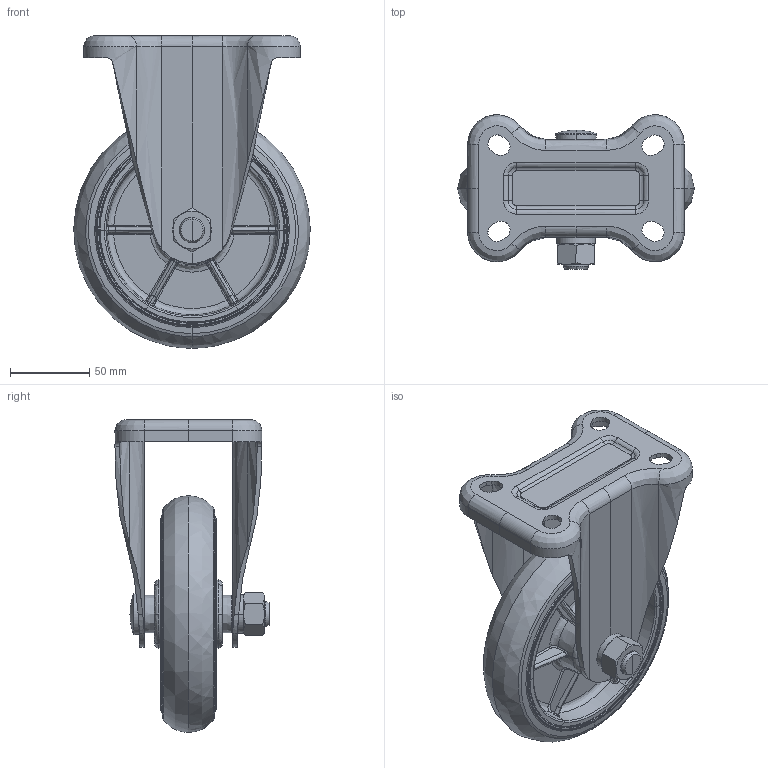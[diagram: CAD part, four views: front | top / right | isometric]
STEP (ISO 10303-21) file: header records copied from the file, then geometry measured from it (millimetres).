
FILE_DESCRIPTION (( 'STEP AP214' ), '1' );
FILE_NAME ('LR-150WK-ƒÓ20.STEP', '2024-12-08T11:11:43', ( 'sakai' ), ( 'Hewlett-Packard' ), 'SwSTEP 2.0', 'SolidWorks 2010', '' );
FILE_SCHEMA (( 'AUTOMOTIVE_DESIGN' ));
Length unit declared in the file: millimetre
Products named in the file (8): LR-150WK-20-11; LR-150WK-20-12; LR-150WK-20-13; LR-150WK-20-14; LR-150WK-20-15; LR-150WK-20-16; LR-150WK-φ20; LR-150WK-20-10
Assembly tree (7 placements, depth 2):
  LR-150WK-φ20
    LR-150WK-20-16
    LR-150WK-20-13
    LR-150WK-20-12
    LR-150WK-20-14
    LR-150WK-20-15
    LR-150WK-20-11
    LR-150WK-20-10
Bounding box: 149.67 x 97.5 x 197.84 mm (x, y, z)
Volume: 475732 mm3; surface area: 179618.1 mm2
Topology: 12 solids, 12 shells, 765 faces, 1747 edges, 962 vertices
Faces by surface type: bspline 604, plane 161
Entity records: 73100 total; most frequent: CARTESIAN_POINT 59610, ORIENTED_EDGE 3426, EDGE_CURVE 1713, B_SPLINE_CURVE_WITH_KNOTS 1291, VERTEX_POINT 962, EDGE_LOOP 783, ADVANCED_FACE 765, FACE_OUTER_BOUND 765
